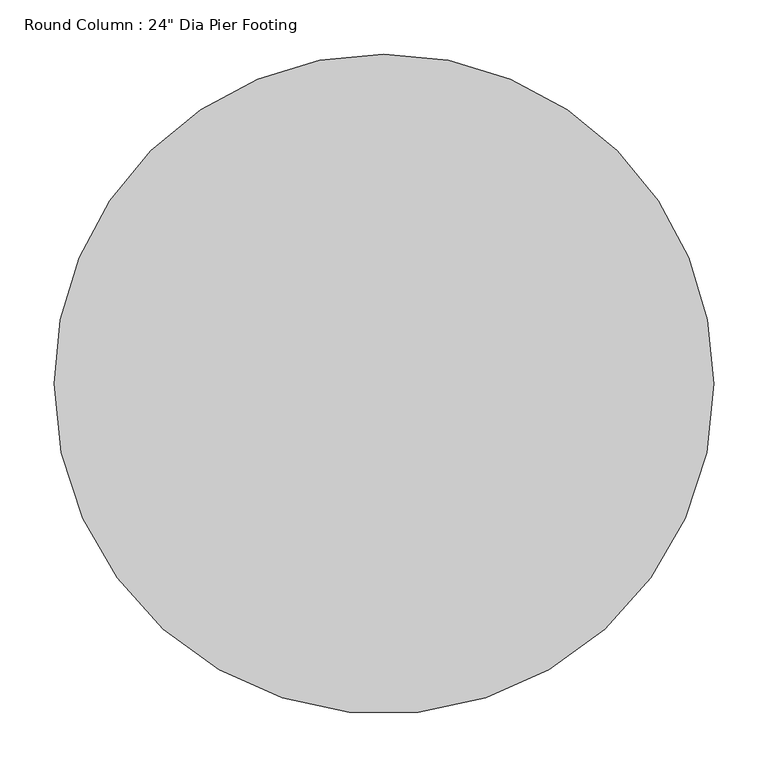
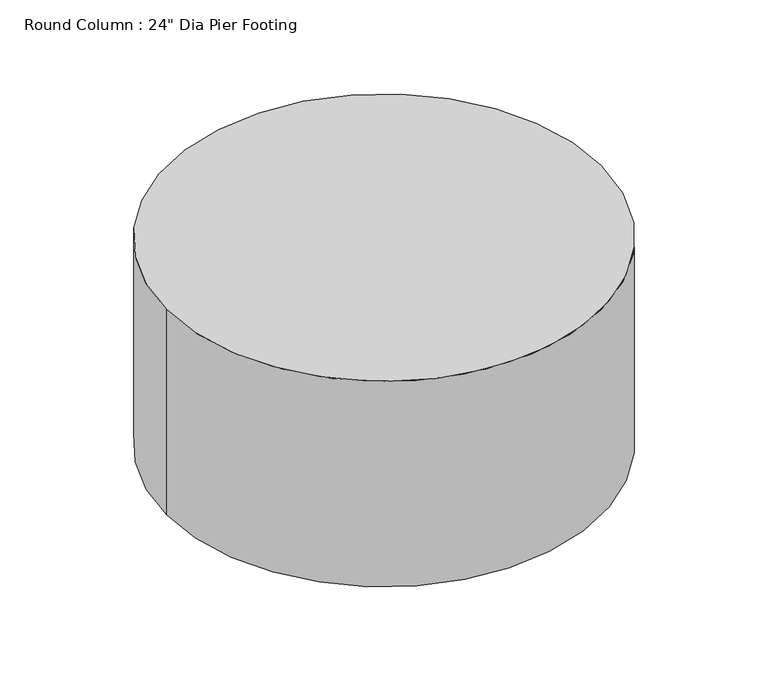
"""IFC4 building model written with IfcOpenShell, lengths in millimetres: column geometry."""

from ifc_helpers import new_model, si_unit, point, frame, origin, origin_2d, place, context, project, spatial, circle_curve, trimmed, segment, composite_curve, outline, extrude, source, transform, mapped, element, save


def column_4fa73ab5(model_context):
    return source(origin(), model_context, "Body", "SweptSolid", [
        extrude(outline(composite_curve([segment(trimmed(circle_curve(origin_2d(), 304.8), [point((304.8, 0.0))], [point((-304.8, 0.0))], False, "CARTESIAN"), True, "CONTINUOUS"), segment(trimmed(circle_curve(origin_2d(), 304.8), [point((-304.8, 0.0))], [point((0.0, 304.8))], False, "CARTESIAN"), True, "CONTINUOUS"), segment(trimmed(circle_curve(origin_2d(), 304.8), [point((0.0, 304.8))], [point((304.8, 0.0))], False, "CARTESIAN"), True, "CONTINUOUS")], self_intersect=False)), frame((0.0, 0.0, 290080.7), z_axis=(0.0, 0.0, 1.0), x_axis=(1.0, 0.0, 0.0)), (0.0, 0.0, 1.0), 304.8),
    ])


if __name__ == "__main__":
    model = new_model("IFC4")
    model_context = context("Model", 3, world=origin())
    ifc_project = project(units=[si_unit("LENGTHUNIT", "METRE", prefix="MILLI")], contexts=[model_context])
    site = spatial("IfcSite", under=ifc_project)
    building = spatial("IfcBuilding", under=site)
    placement = place(None, origin())
    column_shape = column_4fa73ab5(model_context)
    element("IfcColumn", 1, ObjectType="Round Column : 24\" Dia Pier Footing", at=placement, inside=building, context=model_context, shape_type="MappedRepresentation", body=[
        mapped(column_shape, transform((0.0, 0.0, 0.0), x_axis=(1.0, 0.0, 0.0), y_axis=(0.0, 1.0, 0.0), z_axis=(0.0, 0.0, 1.0))),
    ])
    save(model, "model.ifc")
